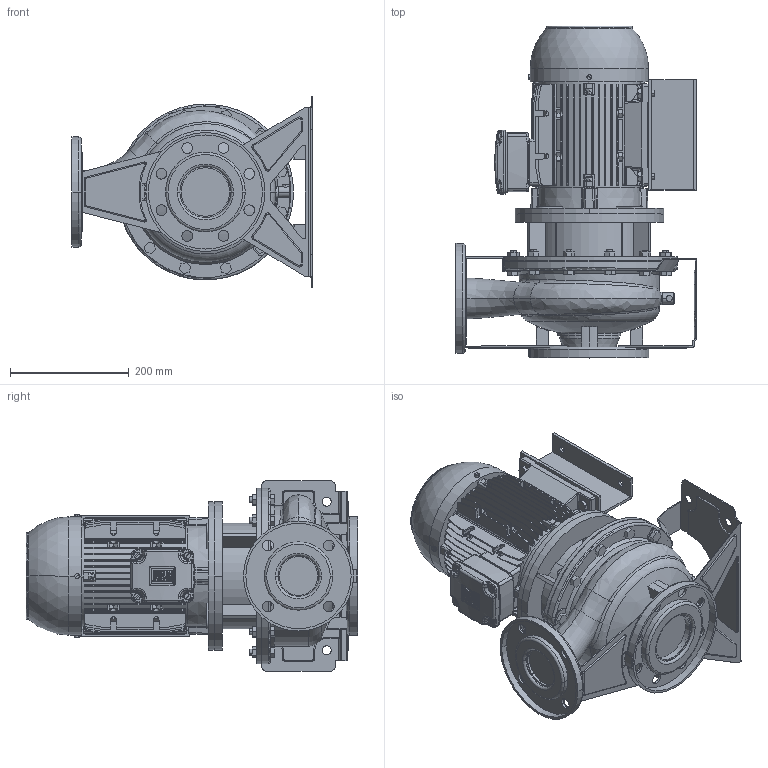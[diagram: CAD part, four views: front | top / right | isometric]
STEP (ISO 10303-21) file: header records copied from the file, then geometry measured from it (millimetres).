
FILE_DESCRIPTION (( 'STEP AP214' ), '1' );
FILE_NAME ('3LS4 65-200_2.2 & 3.0_(100L)_W21.STEP', '2026-10-05T01:31:16', ( '' ), ( '' ), 'SwSTEP 2.0', 'SolidWorks 2024', '' );
FILE_SCHEMA (( 'AUTOMOTIVE_DESIGN' ));
Length unit declared in the file: inch
Products named in the file (3): 100L ALIE3_W21T_B35; 3LS4 65-200_2.2 & 3.0_(100L)_W21; 3SF4_65-200_2_2
Assembly tree (2 placements, depth 2):
  3LS4 65-200_2.2 & 3.0_(100L)_W21
    3SF4_65-200_2_2
    100L ALIE3_W21T_B35
Bounding box: 405 x 558.1 x 320 mm (x, y, z)
Volume: 16420644.3 mm3; surface area: 1743203.1 mm2
Topology: 17 solids, 17 shells, 3407 faces, 8889 edges, 5770 vertices
Faces by surface type: plane 2231, cylinder 706, torus 186, bspline 134, cone 126, sphere 24
Entity records: 151911 total; most frequent: CARTESIAN_POINT 68878, ORIENTED_EDGE 17754, DIRECTION 16234, EDGE_CURVE 8877, LINE 6086, VECTOR 6086, VERTEX_POINT 5770, AXIS2_PLACEMENT_3D 5074
